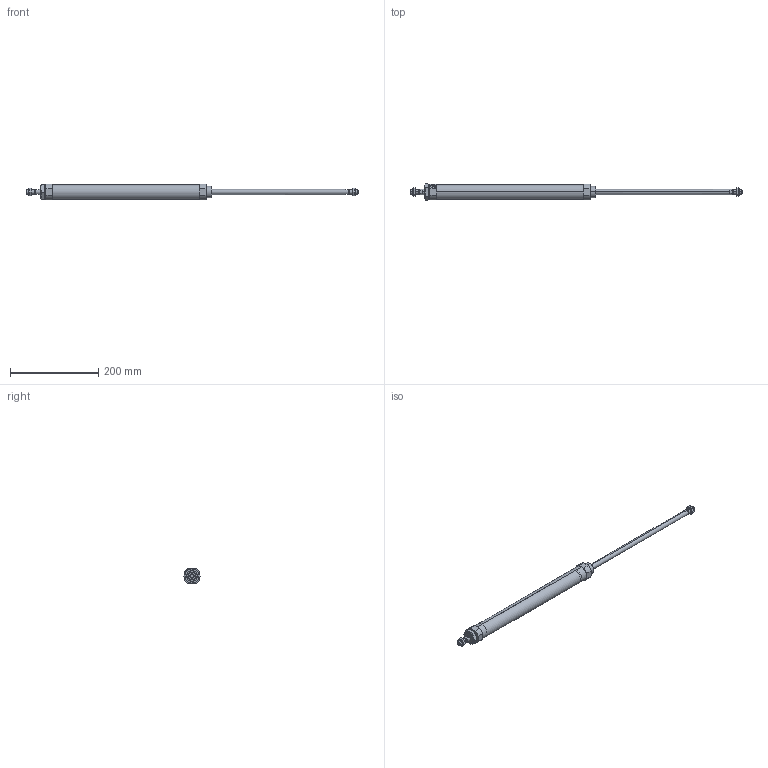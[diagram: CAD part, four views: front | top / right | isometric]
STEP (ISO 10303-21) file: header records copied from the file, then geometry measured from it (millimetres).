
FILE_DESCRIPTION (( 'STEP AP203' ), '1' );
FILE_NAME ('CSM2B32-300-P.STEP', '2020-07-20T16:49:30', ( '' ), ( '' ), 'SwSTEP 2.0', 'SolidWorks 2019', '' );
FILE_SCHEMA (( 'CONFIG_CONTROL_DESIGN' ));
Length unit declared in the file: millimetre
Products named in the file (1): CSM2B32-300-P
Bounding box: 754 x 36.95 x 34.5 mm (x, y, z)
Volume: 181104.1 mm3; surface area: 112835.7 mm2
Topology: 5 solids, 5 shells, 149 faces, 346 edges, 217 vertices
Faces by surface type: plane 57, cylinder 48, cone 44
Entity records: 5397 total; most frequent: CARTESIAN_POINT 1949, DIRECTION 714, ORIENTED_EDGE 680, EDGE_CURVE 340, AXIS2_PLACEMENT_3D 282, VERTEX_POINT 217, EDGE_LOOP 173, VECTOR 150
